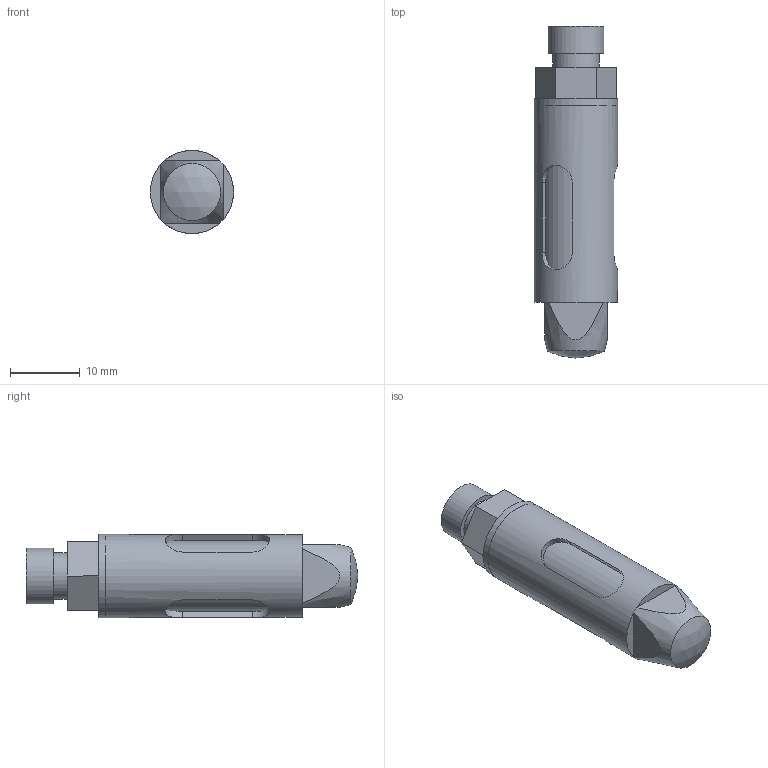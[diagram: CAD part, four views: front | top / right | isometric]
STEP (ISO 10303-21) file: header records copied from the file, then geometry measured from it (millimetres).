
FILE_DESCRIPTION(/* description */ (''),/* implementation_level */ '2;1');
FILE_NAME(/* name */ 'T:\Anwender\Praktikant\Tobias Könemund\Innengreifer\Parametrisch\G-GI012_vereinfacht.stp',/* time_stamp */ '2015-10-30T08:20:12+01:00',/* author */ ('Praktikant'),/* organization */ ('GRIP GmbH'),/* preprocessor_version */ 'ST-DEVELOPER v15.2',/* originating_system */ 'Autodesk Inventor 2014',/* authorisation */ '');
FILE_SCHEMA (('AUTOMOTIVE_DESIGN { 1 0 10303 214 3 1 1 }'));
Length unit declared in the file: millimetre
Products named in the file (3): G-GI012-2.1-1 Dorn_vereinfacht-09; G-GI012-1.1-1 Hülse_vereinfacht-10; Baugruppe_vereinfacht
Bounding box: 11.9 x 47.5 x 11.9 mm (x, y, z)
Volume: 4041.4 mm3; surface area: 3577.8 mm2
Topology: 2 solids, 2 shells, 44 faces, 100 edges, 64 vertices
Faces by surface type: plane 28, cylinder 13, cone 2, sphere 1
Full cylindrical faces by diameter (mm): 5 x1, 6.6 x1, 8 x1, 10.1 x2, 11.9 x2
Entity records: 1378 total; most frequent: CARTESIAN_POINT 403, DIRECTION 188, ORIENTED_EDGE 168, EDGE_CURVE 84, AXIS2_PLACEMENT_3D 71, EDGE_LOOP 64, VERTEX_POINT 58, LINE 46
